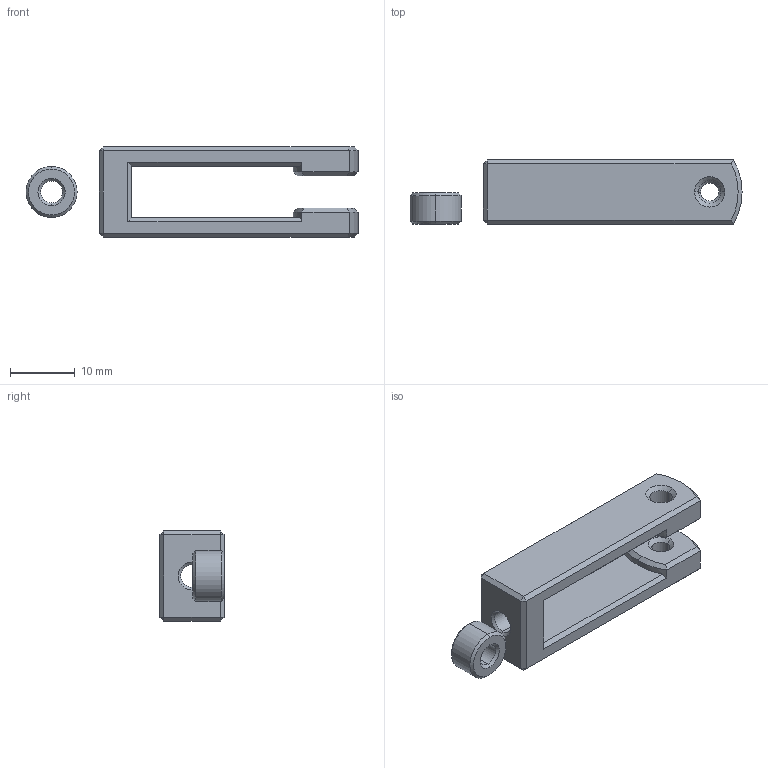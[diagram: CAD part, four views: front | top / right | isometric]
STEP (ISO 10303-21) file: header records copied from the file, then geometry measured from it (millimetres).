
FILE_DESCRIPTION (( 'STEP AP203' ), '1' );
FILE_NAME ('feeder_yoke.STEP', '2014-11-19T22:43:31', ( 'Robban' ), ( '' ), 'SwSTEP 2.0', 'SolidWorks 2013', '' );
FILE_SCHEMA (( 'CONFIG_CONTROL_DESIGN' ));
Length unit declared in the file: millimetre
Products named in the file (1): feeder_yoke
Bounding box: 51.35 x 9.9 x 14 mm (x, y, z)
Volume: 3001.8 mm3; surface area: 2562.1 mm2
Topology: 2 solids, 2 shells, 78 faces, 173 edges, 99 vertices
Faces by surface type: plane 34, cone 29, cylinder 15
Entity records: 2209 total; most frequent: CARTESIAN_POINT 399, DIRECTION 376, ORIENTED_EDGE 346, EDGE_CURVE 173, AXIS2_PLACEMENT_3D 140, VERTEX_POINT 99, LINE 96, VECTOR 96
